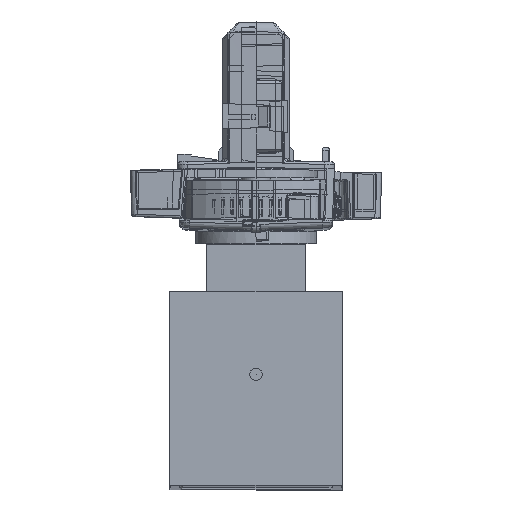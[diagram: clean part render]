
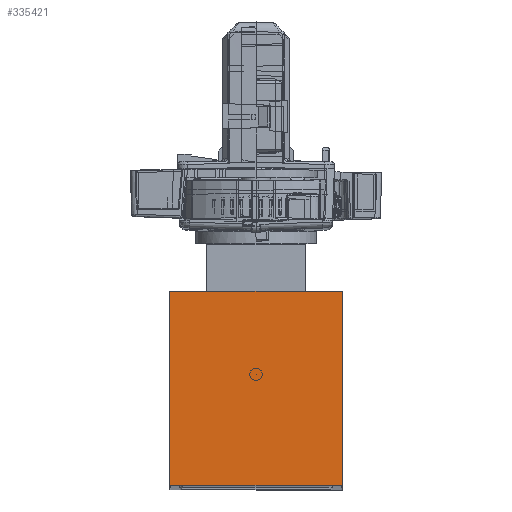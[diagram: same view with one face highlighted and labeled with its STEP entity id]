
A CAD part, top view. The second image highlights one B-rep face of the part: STEP entity #335421.
In plain terms, the highlighted planar face has unit normal (0, 0, 1).
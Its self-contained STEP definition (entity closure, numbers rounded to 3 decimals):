
#4490 = EDGE_CURVE ( 'NONE', #290912, #145385, #180657, .T. ) ;
#6381 = LINE ( 'NONE', #121413, #229701 ) ;
#10889 = CARTESIAN_POINT ( 'NONE',  ( -28.601, -18.75, 3. ) ) ;
#28172 = ORIENTED_EDGE ( 'NONE', *, *, #4490, .T. ) ;
#41009 = VECTOR ( 'NONE', #240106, 1000. ) ;
#42135 = CARTESIAN_POINT ( 'NONE',  ( -28.601, 20.751, 3. ) ) ;
#44108 = VERTEX_POINT ( 'NONE', #115703 ) ;
#58749 = CARTESIAN_POINT ( 'NONE',  ( 6.6, 20.751, 3. ) ) ;
#60044 = CARTESIAN_POINT ( 'NONE',  ( -28.601, -18.75, 3. ) ) ;
#72935 = EDGE_CURVE ( 'NONE', #44108, #330999, #78644, .T. ) ;
#78644 = LINE ( 'NONE', #115710, #339535 ) ;
#90886 = VECTOR ( 'NONE', #97710, 1000. ) ;
#95719 = ORIENTED_EDGE ( 'NONE', *, *, #216357, .T. ) ;
#96914 = LINE ( 'NONE', #42135, #41009 ) ;
#97710 = DIRECTION ( 'NONE',  ( 1., 0., 0. ) ) ;
#100379 = ORIENTED_EDGE ( 'NONE', *, *, #72935, .F. ) ;
#115703 = CARTESIAN_POINT ( 'NONE',  ( -28.601, 20.751, 3. ) ) ;
#115710 = CARTESIAN_POINT ( 'NONE',  ( -28.601, 20.751, 3. ) ) ;
#121413 = CARTESIAN_POINT ( 'NONE',  ( 6.6, 20.751, 3. ) ) ;
#124896 = ORIENTED_EDGE ( 'NONE', *, *, #195320, .F. ) ;
#140217 = EDGE_LOOP ( 'NONE', ( #95719, #28172, #124896, #100379 ) ) ;
#145385 = VERTEX_POINT ( 'NONE', #309343 ) ;
#146217 = DIRECTION ( 'NONE',  ( 1., 0., 0. ) ) ;
#175985 = DIRECTION ( 'NONE',  ( 1., 0., 0. ) ) ;
#180657 = LINE ( 'NONE', #10889, #90886 ) ;
#195320 = EDGE_CURVE ( 'NONE', #330999, #145385, #6381, .T. ) ;
#206409 = PLANE ( 'NONE',  #325355 ) ;
#216357 = EDGE_CURVE ( 'NONE', #44108, #290912, #96914, .T. ) ;
#229701 = VECTOR ( 'NONE', #236333, 1000. ) ;
#231038 = CARTESIAN_POINT ( 'NONE',  ( 0., 0., 3. ) ) ;
#236333 = DIRECTION ( 'NONE',  ( 0., -1., 0. ) ) ;
#240106 = DIRECTION ( 'NONE',  ( 0., -1., 0. ) ) ;
#289390 = FACE_OUTER_BOUND ( 'NONE', #140217, .T. ) ;
#290912 = VERTEX_POINT ( 'NONE', #60044 ) ;
#309343 = CARTESIAN_POINT ( 'NONE',  ( 6.6, -18.75, 3. ) ) ;
#325355 = AXIS2_PLACEMENT_3D ( 'NONE', #231038, #345868, #146217 ) ;
#330999 = VERTEX_POINT ( 'NONE', #58749 ) ;
#335421 = ADVANCED_FACE ( 'NONE', ( #289390 ), #206409, .T. ) ;
#339535 = VECTOR ( 'NONE', #175985, 1000. ) ;
#345868 = DIRECTION ( 'NONE',  ( 0., 0., 1. ) ) ;
